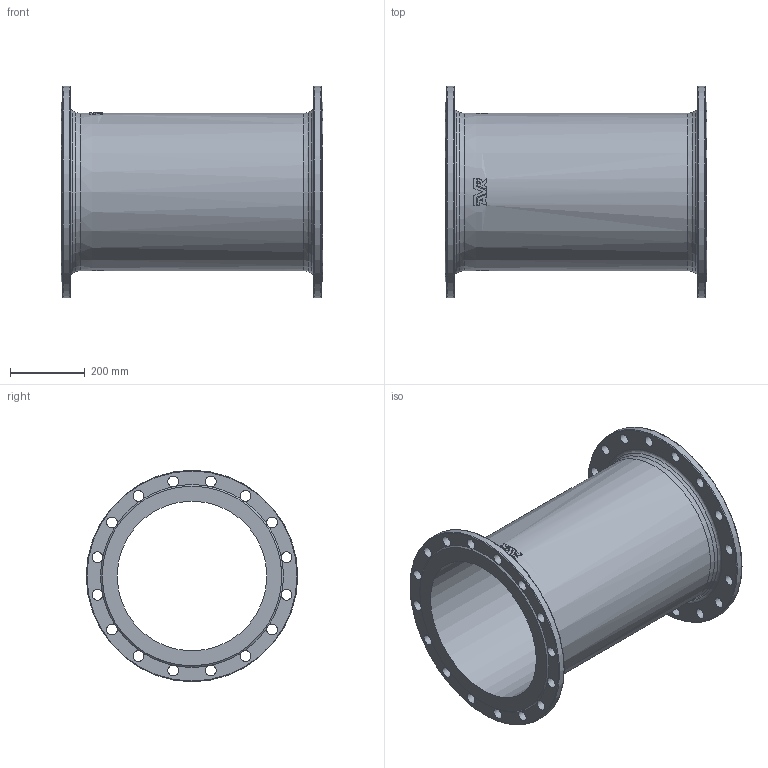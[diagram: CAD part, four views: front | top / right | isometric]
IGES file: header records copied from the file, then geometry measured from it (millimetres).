
Start section: SolidWorks IGES file using analytic representation for surfaces
Global section: file name: \\avksan2\techshare\PBM outline export from Enovia\O_712_5010_DN400_0X_REV01.igs; native system: SolidWorks 2019; preprocessor: SolidWorks 2019; author: pbm; date: 211203.110532; units: millimetre
Bounding box: 700 x 565 x 565 mm (x, y, z)
Surface area: 2280110.6 mm2 (no closed solid volume)
Topology: 0 solids, 0 shells, 95 faces, 605 edges, 556 vertices
Faces by surface type: revolution 52, bspline 43
